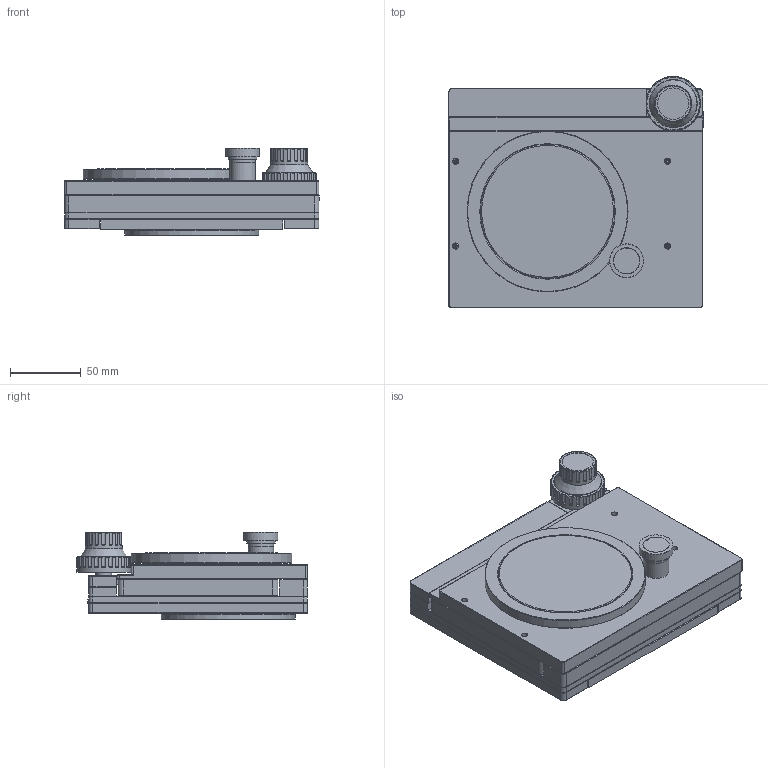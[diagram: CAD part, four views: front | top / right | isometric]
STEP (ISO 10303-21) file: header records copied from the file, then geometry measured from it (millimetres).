
FILE_DESCRIPTION(('STEP AP214'),'1');
FILE_NAME('TK180-K.stp','2023-06-05T02:37:58',(' '),(' '),'Spatial InterOp 3D',' ',' ');
FILE_SCHEMA(('AUTOMOTIVE_DESIGN { 1 0 10303 214 1 1 1 1 }'));
Length unit declared in the file: metre
Products named in the file (3): TK180-K; Component1; Component2
Assembly tree (2 placements, depth 2):
  TK180-K
    Component1
    Component2
Bounding box: 180.3 x 163.6 x 62 mm (x, y, z)
Volume: 774764.9 mm3; surface area: 220494.8 mm2
Topology: 7 solids, 7 shells, 958 faces, 2512 edges, 1609 vertices
Faces by surface type: plane 463, cylinder 296, torus 145, bspline 26, cone 26, sphere 2
Full cylindrical faces by diameter (mm): 2 x2, 3 x8, 3.3 x3, 3.5 x10, 4.3 x4, 4.5 x2, 5.1 x4, 6 x6, 6.4 x8, 6.7 x3, 8 x8, 11.2 x1, 18 x1, 18.1 x1, 18.5 x1, 20 x1, 22.2 x1, 24 x2, 26 x1, 33.5 x1, 34 x1, 36.1 x1, 37 x1, 38.5 x1, 75 x1, 80 x1, 94.8 x1, 94.82 x1, 95 x4, 114 x1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
Entity records: 50066 total; most frequent: CARTESIAN_POINT 8209, ORIENTED_EDGE 4606, DIRECTION 4605, STYLED_ITEM 3268, PRESENTATION_STYLE_ASSIGNMENT 3268, COLOUR_RGB 3268, EDGE_CURVE 2303, CURVE_STYLE 2303
